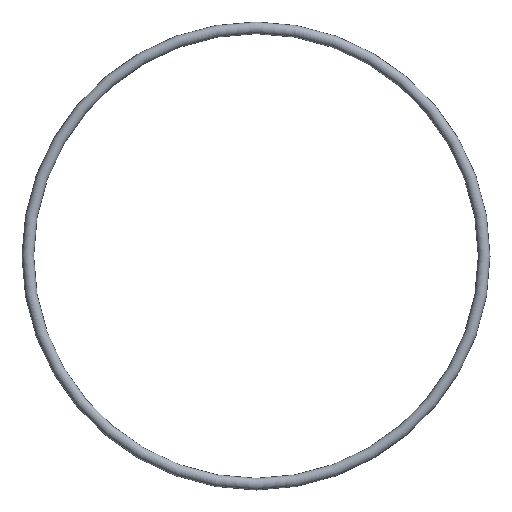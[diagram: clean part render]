
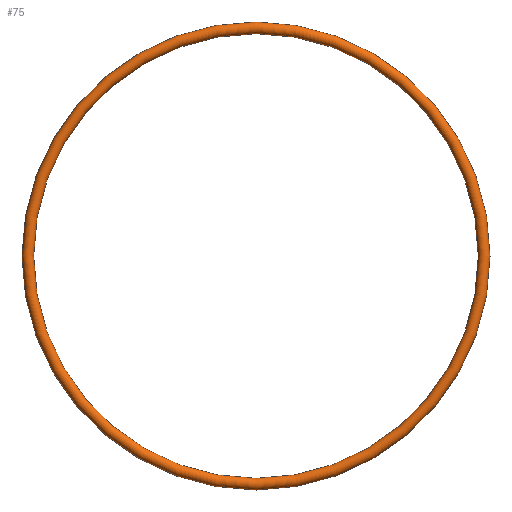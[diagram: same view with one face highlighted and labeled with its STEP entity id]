
A CAD part, front view. The second image highlights one B-rep face of the part: STEP entity #75.
In plain terms, the highlighted toroidal (fillet/blend) face has major radius 39 mm and minor radius 1 mm.
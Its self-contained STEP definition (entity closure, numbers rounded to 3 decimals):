
#75 = ADVANCED_FACE( '', ( #77 ), #78, .T. );
#77 = FACE_BOUND( '', #79, .T. );
#78 = TOROIDAL_SURFACE( '', #80, 39., 1. );
#79 = VERTEX_LOOP( '', #81 );
#80 = AXIS2_PLACEMENT_3D( '', #82, #83, #84 );
#81 = VERTEX_POINT( '', #85 );
#82 = CARTESIAN_POINT( '', ( 0., 0., 0. ) );
#83 = DIRECTION( '', ( 0., -1., 0. ) );
#84 = DIRECTION( '', ( 0., 0., -1. ) );
#85 = CARTESIAN_POINT( '', ( 0., 0., -40. ) );
